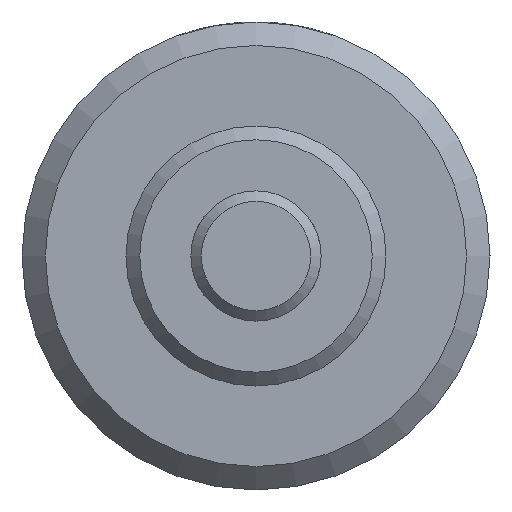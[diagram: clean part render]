
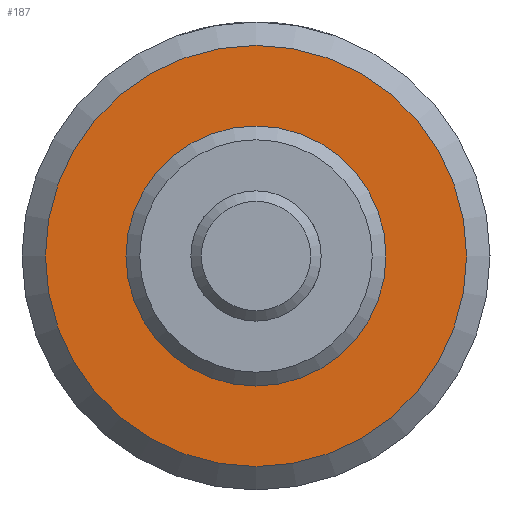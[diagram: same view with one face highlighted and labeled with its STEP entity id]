
A CAD part, left-side view. The second image highlights one B-rep face of the part: STEP entity #187.
In plain terms, the highlighted planar face has unit normal (-1, 0, 0).
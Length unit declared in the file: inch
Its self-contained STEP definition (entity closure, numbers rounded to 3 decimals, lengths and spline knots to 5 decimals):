
#187 = ADVANCED_FACE( '', ( #396, #397 ), #398, .F. );
#396 = FACE_OUTER_BOUND( '', #644, .T. );
#397 = FACE_BOUND( '', #645, .T. );
#398 = PLANE( '', #646 );
#644 = EDGE_LOOP( '', ( #996 ) );
#645 = EDGE_LOOP( '', ( #997 ) );
#646 = AXIS2_PLACEMENT_3D( '', #998, #999, #1000 );
#996 = ORIENTED_EDGE( '', *, *, #1343, .F. );
#997 = ORIENTED_EDGE( '', *, *, #1300, .T. );
#998 = CARTESIAN_POINT( '', ( 0.5, 0.312, 0. ) );
#999 = DIRECTION( '', ( 1., 0., 0. ) );
#1000 = DIRECTION( '', ( 0., 0., -1. ) );
#1300 = EDGE_CURVE( '', #1512, #1512, #1513, .T. );
#1343 = EDGE_CURVE( '', #1572, #1572, #1573, .T. );
#1512 = VERTEX_POINT( '', #1887 );
#1513 = CIRCLE( '', #1888, 0.312 );
#1572 = VERTEX_POINT( '', #1954 );
#1573 = CIRCLE( '', #1955, 0.50625 );
#1887 = CARTESIAN_POINT( '', ( 0.5, 0., -0.312 ) );
#1888 = AXIS2_PLACEMENT_3D( '', #2185, #2186, #2187 );
#1954 = CARTESIAN_POINT( '', ( 0.5, 0., -0.50625 ) );
#1955 = AXIS2_PLACEMENT_3D( '', #2258, #2259, #2260 );
#2185 = CARTESIAN_POINT( '', ( 0.5, 0., 0. ) );
#2186 = DIRECTION( '', ( 1., 0., 0. ) );
#2187 = DIRECTION( '', ( 0., 0., -1. ) );
#2258 = CARTESIAN_POINT( '', ( 0.5, 0., 0. ) );
#2259 = DIRECTION( '', ( 1., 0., 0. ) );
#2260 = DIRECTION( '', ( 0., 0., -1. ) );
